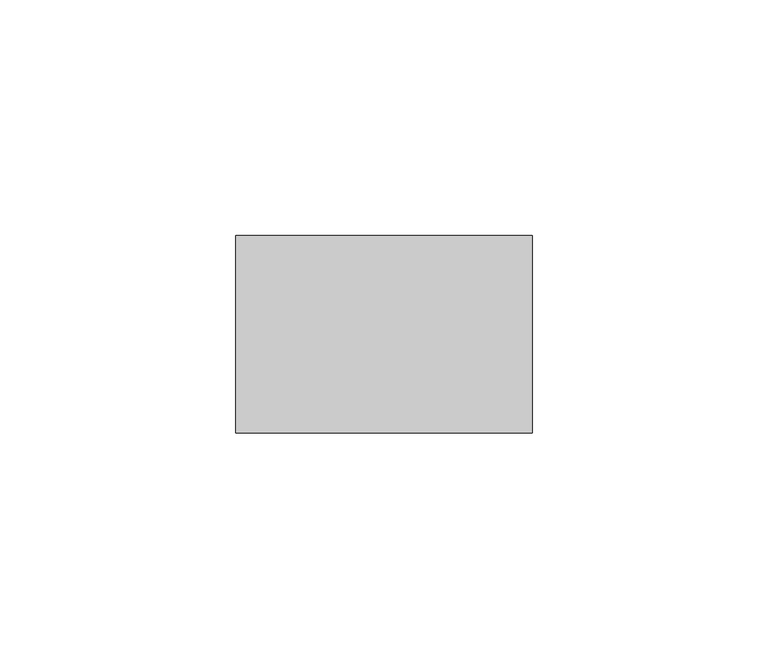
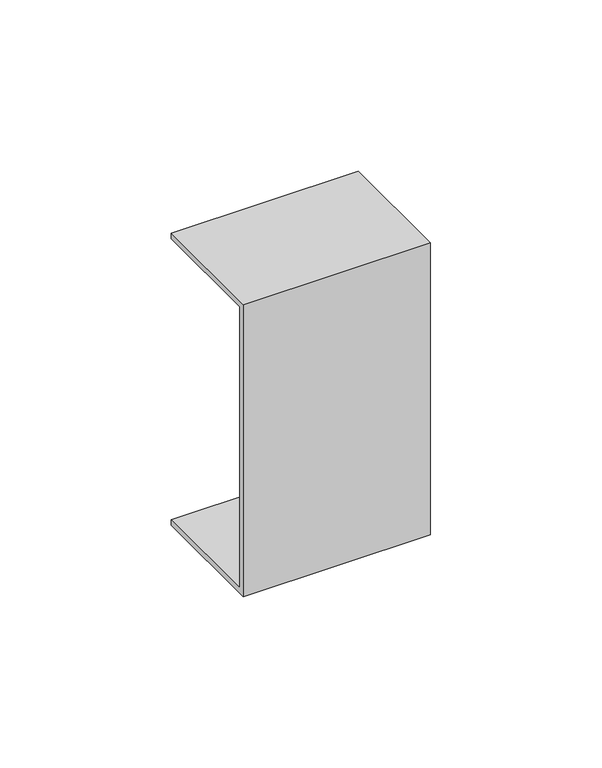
"""IFC4 building model written with IfcOpenShell, lengths in millimetres: proxy geometry, Соединитель_КМС : Соединитель КМС 100х40."""

from ifc_helpers import new_model, si_unit, frame, origin, place, context, project, spatial, polyline, outline, extrude, source, transform, mapped, element, save


def generic_models_9b11d93a(model_context):
    return source(origin(), model_context, "Body", "SweptSolid", [
        extrude(outline(polyline([(-42.0, 42.0), (0.0, 42.0), (0.0, 40.0), (-40.0, 40.0), (-40.0, -60.0), (0.0, -60.0), (0.0, -62.0), (-42.0, -62.0), (-42.0, 42.0)])), frame((0.0, 0.0, 0.0), z_axis=(1.0, 0.0, 0.0), x_axis=(0.0, 1.0, 0.0)), (0.0, 0.0, 1.0), 63.0),
    ])


if __name__ == "__main__":
    model = new_model("IFC4")
    model_context = context("Model", 3, world=origin())
    ifc_project = project(units=[si_unit("LENGTHUNIT", "METRE", prefix="MILLI")], contexts=[model_context])
    site = spatial("IfcSite", under=ifc_project)
    building = spatial("IfcBuilding", under=site)
    placement = place(None, origin())
    generic_models_shape = generic_models_9b11d93a(model_context)
    element("IfcBuildingElementProxy", 1, Name="Соединитель_КМС : Соединитель КМС 100х40", ObjectType="Соединитель_КМС : Соединитель КМС 100х40", at=placement, inside=building, context=model_context, shape_type="MappedRepresentation", body=[
        mapped(generic_models_shape, transform((0.0, 0.0, 0.0), x_axis=(1.0, 0.0, 0.0), y_axis=(0.0, 1.0, 0.0), z_axis=(0.0, 0.0, 1.0))),
    ])
    save(model, "model.ifc")
